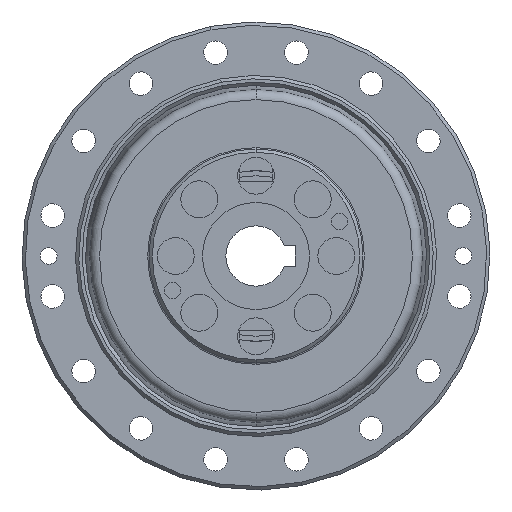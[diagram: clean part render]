
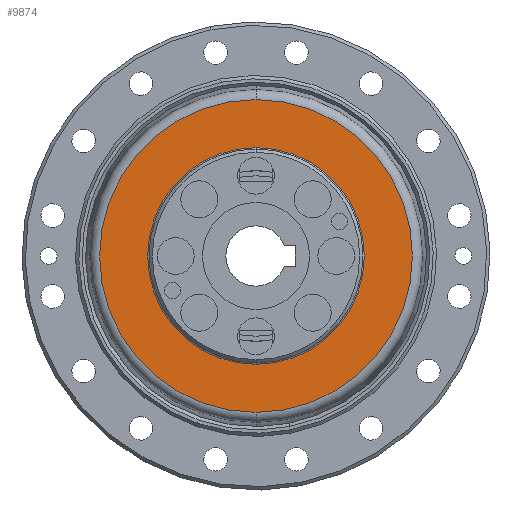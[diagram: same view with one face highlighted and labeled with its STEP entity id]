
A CAD part, left-side view. The second image highlights one B-rep face of the part: STEP entity #9874.
In plain terms, the highlighted planar face has unit normal (-1, 0, 0).
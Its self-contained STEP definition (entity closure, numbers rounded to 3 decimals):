
#381 = EDGE_CURVE ( 'NONE', #2980, #2325, #9894, .T. ) ;
#507 = CARTESIAN_POINT ( 'NONE',  ( 2.649, 0., 0. ) ) ;
#1135 = EDGE_LOOP ( 'NONE', ( #8784, #8606 ) ) ;
#1409 = DIRECTION ( 'NONE',  ( 0., 0., 1. ) ) ;
#2032 = DIRECTION ( 'NONE',  ( 0., 0., -1. ) ) ;
#2093 = AXIS2_PLACEMENT_3D ( 'NONE', #5159, #15817, #6667 ) ;
#2325 = VERTEX_POINT ( 'NONE', #17093 ) ;
#2788 = CIRCLE ( 'NONE', #2093, 16.2 ) ;
#2980 = VERTEX_POINT ( 'NONE', #10793 ) ;
#3282 = EDGE_CURVE ( 'NONE', #2325, #2980, #16363, .T. ) ;
#3320 = DIRECTION ( 'NONE',  ( -1., 0., 0. ) ) ;
#3886 = ORIENTED_EDGE ( 'NONE', *, *, #381, .T. ) ;
#3944 = AXIS2_PLACEMENT_3D ( 'NONE', #6732, #6807, #7596 ) ;
#4110 = VERTEX_POINT ( 'NONE', #18703 ) ;
#5159 = CARTESIAN_POINT ( 'NONE',  ( 2.649, 0., 0. ) ) ;
#5321 = EDGE_LOOP ( 'NONE', ( #3886, #15995 ) ) ;
#5830 = EDGE_CURVE ( 'NONE', #4110, #7365, #17893, .T. ) ;
#6667 = DIRECTION ( 'NONE',  ( 0., 0., -1. ) ) ;
#6732 = CARTESIAN_POINT ( 'NONE',  ( 2.649, 0., 0. ) ) ;
#6807 = DIRECTION ( 'NONE',  ( -1., 0., 0. ) ) ;
#7365 = VERTEX_POINT ( 'NONE', #7606 ) ;
#7567 = EDGE_CURVE ( 'NONE', #7365, #4110, #2788, .T. ) ;
#7596 = DIRECTION ( 'NONE',  ( 0., 0., -1. ) ) ;
#7606 = CARTESIAN_POINT ( 'NONE',  ( 2.649, 0., 16.2 ) ) ;
#7900 = FACE_BOUND ( 'NONE', #1135, .T. ) ;
#8606 = ORIENTED_EDGE ( 'NONE', *, *, #7567, .F. ) ;
#8784 = ORIENTED_EDGE ( 'NONE', *, *, #5830, .F. ) ;
#9874 = ADVANCED_FACE ( 'NONE', ( #7900, #11999 ), #19571, .F. ) ;
#9894 = CIRCLE ( 'NONE', #3944, 23.385 ) ;
#10450 = AXIS2_PLACEMENT_3D ( 'NONE', #16552, #10472, #1409 ) ;
#10472 = DIRECTION ( 'NONE',  ( 1., 0., 0. ) ) ;
#10793 = CARTESIAN_POINT ( 'NONE',  ( 2.649, 0., -23.385 ) ) ;
#11133 = DIRECTION ( 'NONE',  ( -1., 0., 0. ) ) ;
#11679 = AXIS2_PLACEMENT_3D ( 'NONE', #507, #11133, #2032 ) ;
#11999 = FACE_OUTER_BOUND ( 'NONE', #5321, .T. ) ;
#12428 = CARTESIAN_POINT ( 'NONE',  ( 2.649, 0., 0. ) ) ;
#13983 = DIRECTION ( 'NONE',  ( 0., 0., -1. ) ) ;
#15817 = DIRECTION ( 'NONE',  ( -1., 0., 0. ) ) ;
#15995 = ORIENTED_EDGE ( 'NONE', *, *, #3282, .T. ) ;
#16363 = CIRCLE ( 'NONE', #18458, 23.385 ) ;
#16552 = CARTESIAN_POINT ( 'NONE',  ( 2.649, -23.385, 0. ) ) ;
#17093 = CARTESIAN_POINT ( 'NONE',  ( 2.649, 0., 23.385 ) ) ;
#17893 = CIRCLE ( 'NONE', #11679, 16.2 ) ;
#18458 = AXIS2_PLACEMENT_3D ( 'NONE', #12428, #3320, #13983 ) ;
#18703 = CARTESIAN_POINT ( 'NONE',  ( 2.649, 0., -16.2 ) ) ;
#19571 = PLANE ( 'NONE',  #10450 ) ;
